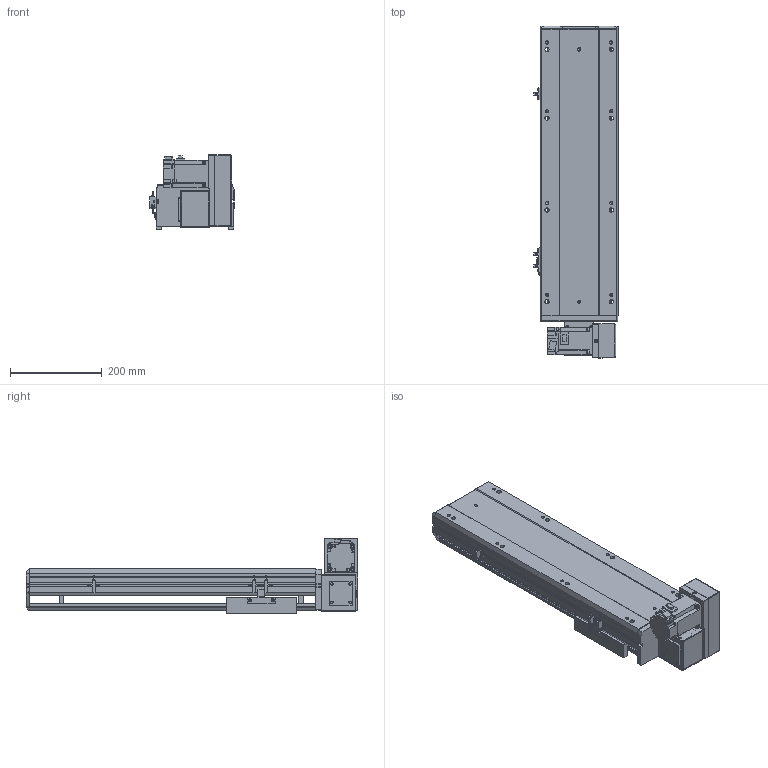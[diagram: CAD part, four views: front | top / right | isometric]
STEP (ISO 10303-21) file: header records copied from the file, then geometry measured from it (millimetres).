
FILE_DESCRIPTION (( 'STEP AP203' ), '1' );
FILE_NAME ('BTB17-L40-350-LD-M40-C4.STEP', '2022-07-20T03:27:44', ( 'CXY' ), ( 'BT' ), 'SwSTEP 2.0', 'SolidWorks 2016', '' );
FILE_SCHEMA (( 'CONFIG_CONTROL_DESIGN' ));
Length unit declared in the file: millimetre
Products named in the file (11): FS-07-T40(1); BTB17-L-菁釱_XD; BTB17-L-01; BTB17-L-06; BTB17-L-24; BTB17-L40-350-LD-M40-C4; FS-08-T40; BTB17-L-04; BTB17-L-23; M40; BTB17-L-HZ
Assembly tree (13 placements, depth 2):
  BTB17-L40-350-LD-M40-C4
    BTB17-L-菁釱_XD
    BTB17-L-01
    BTB17-L-04  x3
    BTB17-L-06
    BTB17-L-23  x2
    BTB17-L-24
    BTB17-L-HZ
    FS-07-T40(1)
    FS-08-T40
    M40
Bounding box: 183.7 x 723.5 x 161.5 mm (x, y, z)
Volume: 6447791.9 mm3; surface area: 979966.4 mm2
Topology: 22 solids, 22 shells, 1561 faces, 4119 edges, 2618 vertices
Faces by surface type: plane 901, cylinder 488, cone 140, torus 16, bspline 16
Entity records: 40450 total; most frequent: CARTESIAN_POINT 8002, DIRECTION 6553, ORIENTED_EDGE 6414, EDGE_CURVE 3207, AXIS2_PLACEMENT_3D 2191, LINE 2171, VECTOR 2171, VERTEX_POINT 2086
